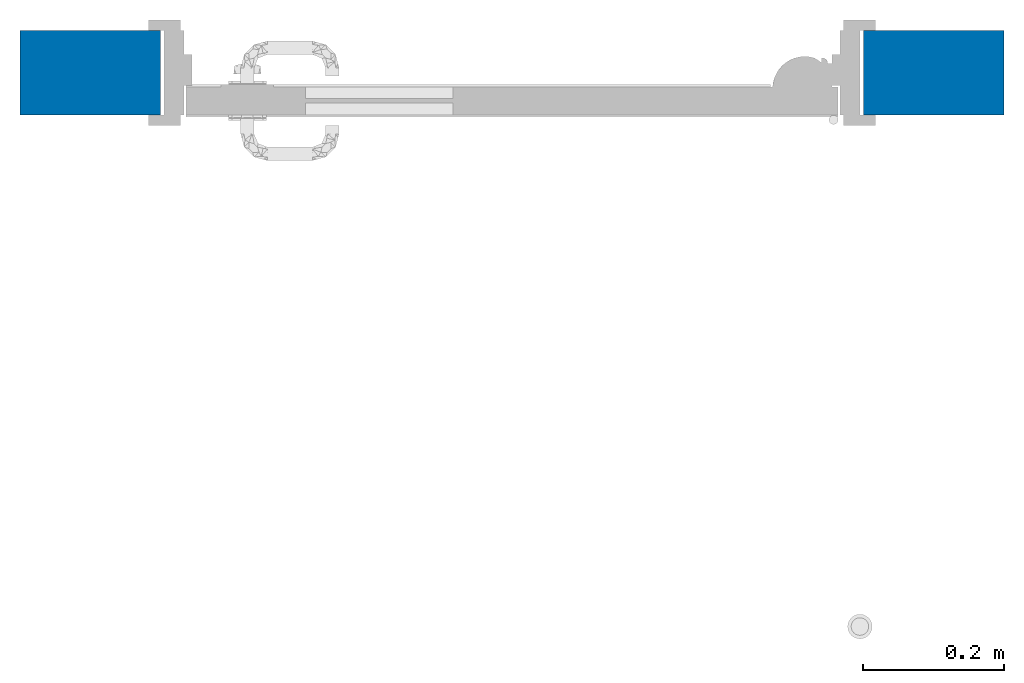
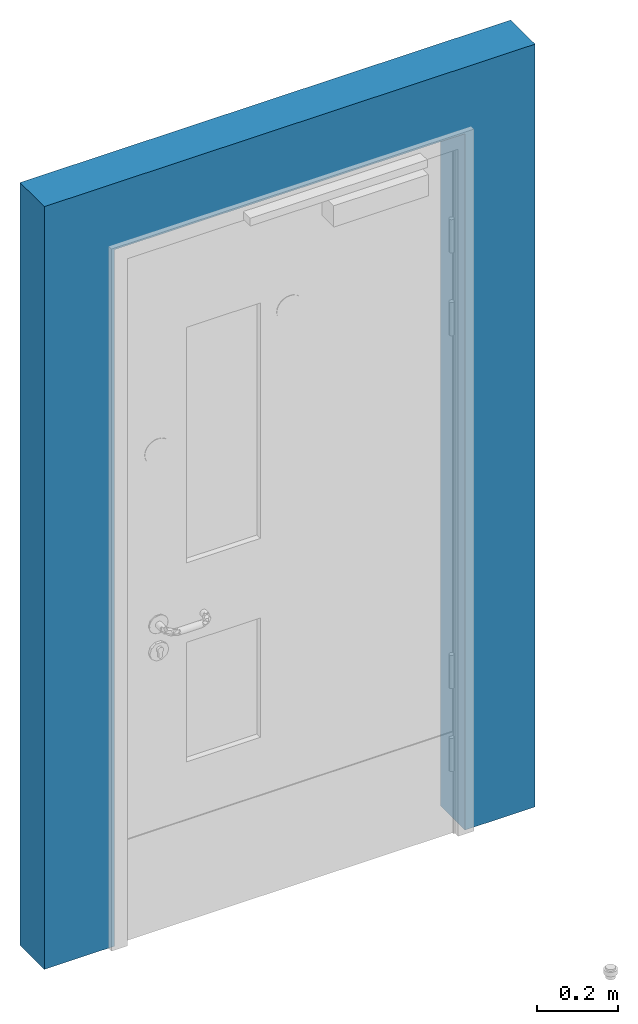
# One storey, incomplete: 1 wall, 1 opening.
"""IFC2X3 building model written with IfcOpenShell, lengths in millimetres."""

from ifc_helpers import new_model, entity, si_unit, converted_unit, derived_unit, direction, frame, frame_2d, origin, place, context, subcontext, project, spatial, rectangle, extrude, material, layer, layer_set, layer_usage, type_object, element, save


model = new_model("IFC2X3")

# Units and contexts
model_context = context("Model", 3, precision=0.01, world=origin(), true_north=direction((6.12303176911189e-17, 1.0)))
body_context = subcontext(model_context, "Body", "Model", "MODEL_VIEW")
ifc_project = project(units=[si_unit("LENGTHUNIT", "METRE", prefix="MILLI"), si_unit("AREAUNIT", "SQUARE_METRE"), si_unit("VOLUMEUNIT", "CUBIC_METRE"), converted_unit("PLANEANGLEUNIT", "DEGREE", entity("IfcRatioMeasure", 0.0174532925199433), si_unit("PLANEANGLEUNIT", "RADIAN"), dimensions=[0, 0, 0, 0, 0, 0, 0]), si_unit("MASSUNIT", "GRAM", prefix="KILO"), si_unit("TIMEUNIT", "SECOND"), si_unit("FREQUENCYUNIT", "HERTZ"), si_unit("THERMODYNAMICTEMPERATUREUNIT", "DEGREE_CELSIUS"), derived_unit("THERMALTRANSMITTANCEUNIT", [(si_unit("MASSUNIT", "GRAM", prefix="KILO"), 1), (si_unit("THERMODYNAMICTEMPERATUREUNIT", "KELVIN"), -1), (si_unit("TIMEUNIT", "SECOND"), -3)]), derived_unit("VOLUMETRICFLOWRATEUNIT", [(si_unit("LENGTHUNIT", "METRE"), 3), (si_unit("TIMEUNIT", "SECOND"), -1)]), si_unit("ELECTRICCURRENTUNIT", "AMPERE"), si_unit("ELECTRICVOLTAGEUNIT", "VOLT"), si_unit("POWERUNIT", "WATT"), si_unit("FORCEUNIT", "NEWTON", prefix="KILO"), si_unit("ILLUMINANCEUNIT", "LUX"), si_unit("LUMINOUSFLUXUNIT", "LUMEN"), si_unit("LUMINOUSINTENSITYUNIT", "CANDELA"), si_unit("PRESSUREUNIT", "PASCAL")], contexts=[model_context])

# Site, building, storey
site_placement = place(None, origin())
site = spatial("IfcSite", under=ifc_project, at=site_placement, Name="Default", CompositionType="ELEMENT")
building_placement = place(site_placement, origin())
building = spatial("IfcBuilding", under=site, at=building_placement, CompositionType="ELEMENT")
storey_placement = place(building_placement, origin())
storey = spatial("IfcBuildingStorey", under=building, at=storey_placement, Name="Level 0", CompositionType="ELEMENT", Elevation=0.0)

# Wall, opening
ifc_material = material(Name="Brick, Common")
ifc_layer = layer(ifc_material, 120.0)
ifc_layer_set = layer_set([ifc_layer], Name="Basic Wall:Int - 120 - Brick")
ifc_layer_usage = layer_usage(ifc_layer_set, "AXIS2", "NEGATIVE", 60.0)
wall_type = type_object("IfcWallType", Name="Basic Wall:Int - 120 - Brick", PredefinedType="STANDARD", material=ifc_layer_set)
wall_placement = place(storey_placement, frame((-700.0, 0.0, 0.0)))
wall = element("IfcWallStandardCase", 1, at=wall_placement, inside=storey, type_object=wall_type, material=ifc_layer_usage, Name="Basic Wall:Int - 120 - Brick", ObjectType="Basic Wall:Int - 120 - Brick", context=body_context, shape_type="SweptSolid", body=[
    extrude(rectangle(XDim=1400.0, YDim=120.0, at=frame_2d((700.0, 0.0), x_axis=(-1.0, 0.0))), origin(), (0.0, 0.0, 1.0), 2300.0),
])
opening_placement = place(wall_placement, frame((1200.0, 60.0, 0.0)))
element("IfcOpeningElement", 2, at=opening_placement, cuts=wall, Name="NBS_AssaAbloyLtd_DrsetSym_MedicaSelectSingle:1000x2100mm:1", ObjectType="Opening", context=body_context, shape_type="SweptSolid", body=[
    extrude(rectangle(XDim=2099.99999999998, YDim=1000.0, at=frame_2d((1049.99999999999, 500.0), x_axis=(1.0, 0.0))), frame((0.0, 0.0, 0.0), z_axis=(0.0, -1.0, 0.0), x_axis=(0.0, 0.0, 1.0)), (0.0, 0.0, 1.0), 120.0),
])

save(model, "model.ifc")
